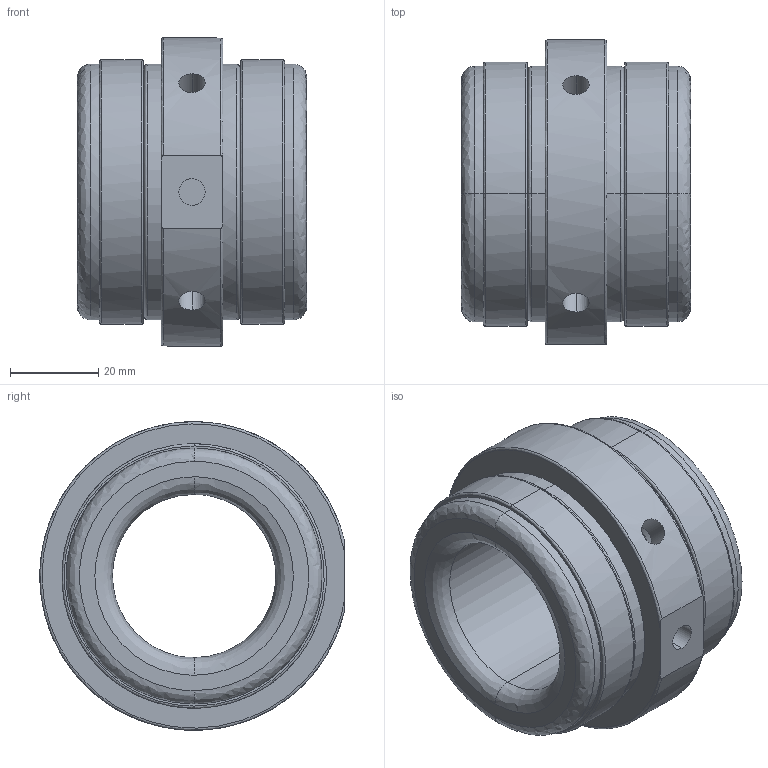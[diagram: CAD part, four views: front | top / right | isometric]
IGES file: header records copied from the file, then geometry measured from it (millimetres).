
Start section: ------------------------------------------------------------------------
Global section: file name: D:\ICADMX\tmp\trans3d_spg\TGMX25.588.RBG040GCA_8244.igs; native system: spGate; preprocessor: ver11.3.7; author: Unknown; organization: Unknown; date: 150330.135642; units: millimetre
Bounding box: 52 x 68.97 x 69.99 mm (x, y, z)
Volume: 99565.7 mm3; surface area: 22707 mm2
Topology: 1 solids, 1 shells, 81 faces, 176 edges, 96 vertices
Faces by surface type: bspline 81
